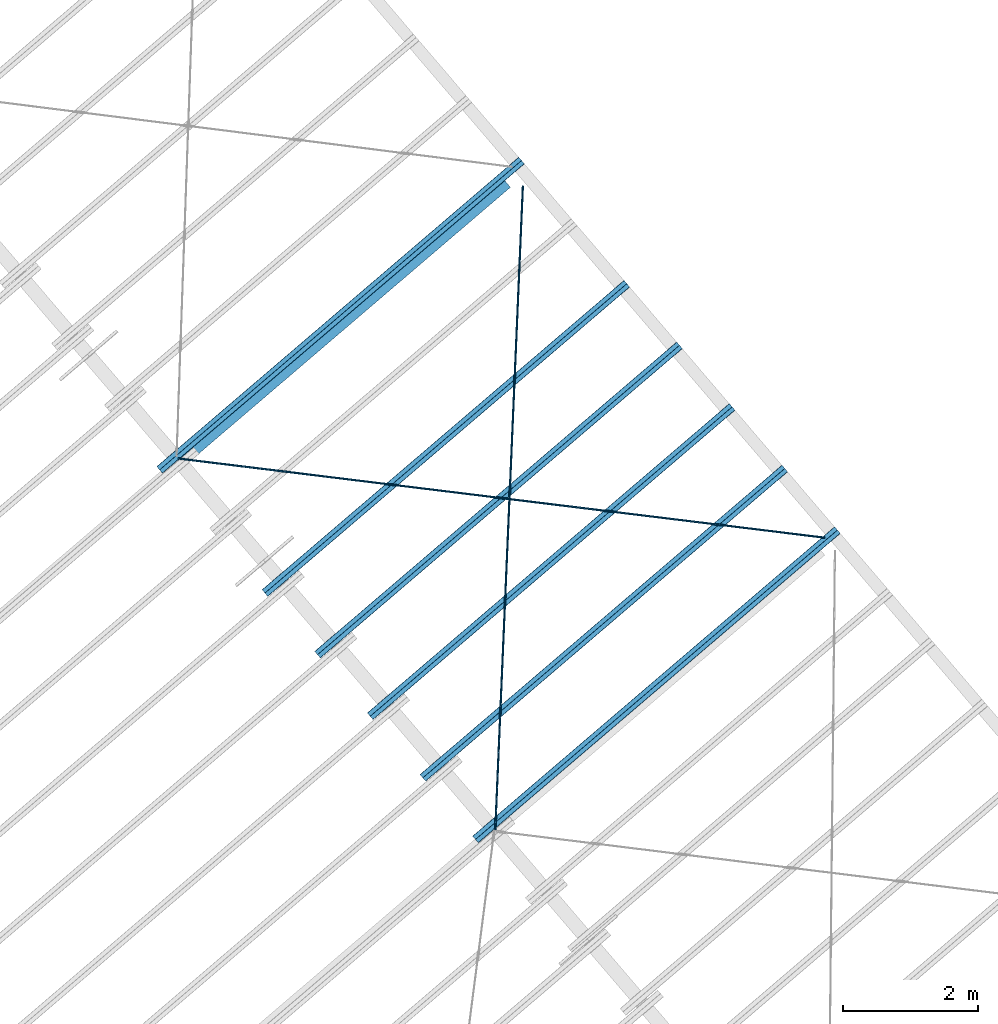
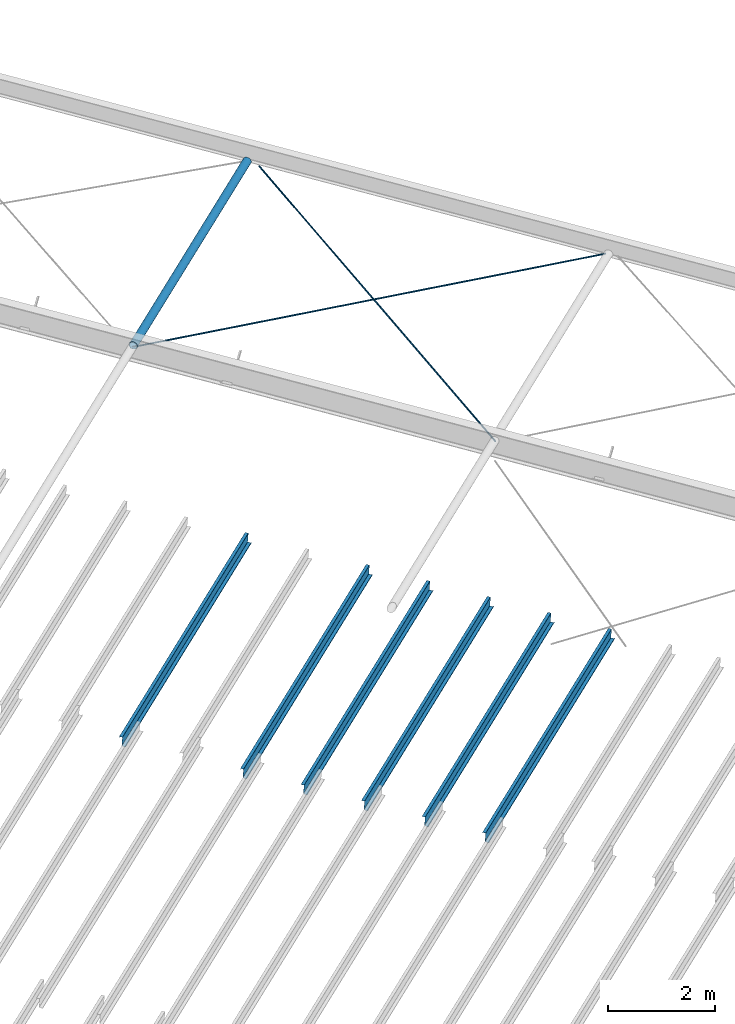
# One storey, part 17 of 25: 9 beams, 1 element without a shape of its own.
"""IFC2X3 building model written with IfcOpenShell, lengths in millimetres."""

import ifcopenshell
import ifcopenshell.guid

model = None  # the IFC model being written
_history = None  # IfcOwnerHistory: only IFC2X3 demands one
_inside = {}  # id of a spatial element -> (the spatial element, [elements in it])
_under = {}  # id of a project, library or spatial element -> (it, [spatial elements below it])
_declared = {}  # id of a project -> (the project, [libraries it declares])
_typed = {}  # id of a type object -> (the type object, [elements of that type])
_made_of = {}  # id of a material, layer set ... -> (it, [elements and type objects made of it])


def new_model(schema):
    """Start an empty IFC model of exactly this schema.

    Asked for "IFC4X3", IfcOpenShell would pick the latest addendum, in which some entities
    have other attributes; the version numbers below select the first issue.
    IFC2X3 requires an IfcOwnerHistory on every rooted entity: one is made here for all.
    """
    global model, _history
    if schema == "IFC4X3":
        model = ifcopenshell.file(schema_version=(4, 3, 0, 0))
    else:
        model = ifcopenshell.file(schema=schema)
    _inside.clear()
    _under.clear()
    _declared.clear()
    _typed.clear()
    _made_of.clear()
    _history = None
    if model.schema == "IFC2X3":
        org = make("IfcOrganization", Name="unknown")
        user = make(
            "IfcPersonAndOrganization",
            ThePerson=make("IfcPerson", FamilyName="unknown"),
            TheOrganization=org,
        )
        app = make(
            "IfcApplication",
            ApplicationDeveloper=org,
            Version="unknown",
            ApplicationFullName="unknown",
            ApplicationIdentifier="unknown",
        )
        _history = make(
            "IfcOwnerHistory",
            OwningUser=user,
            OwningApplication=app,
            ChangeAction="ADDED",
            CreationDate=0,
        )
    return model


def make(cls, **values):
    """One entity of the class cls with the attributes given. An attribute that is None is left unset."""
    return model.create_entity(
        cls, **{name: value for name, value in values.items() if value is not None}
    )


def entity(cls, *values):
    """Any entity or typed value of the class cls, its attributes in the order of the schema. None: left unset."""
    e = model.create_entity(cls)
    for i, value in enumerate(values):
        if value is not None:
            e[i] = value
    return e


def rooted(cls, **values):
    """An entity with a GlobalId (a new one), such as an element, a storey or a relation."""
    return make(cls, GlobalId=ifcopenshell.guid.new(), OwnerHistory=_history, **values)


def si_unit(unit_type, name, prefix=None):
    """IfcSIUnit, for example si_unit("LENGTHUNIT", "METRE", prefix="MILLI")."""
    return make("IfcSIUnit", UnitType=unit_type, Prefix=prefix, Name=name)


def converted_unit(unit_type, name, factor, base, dimensions=None, offset=None):
    """IfcConversionBasedUnit, such as the inch: factor (a typed value) times the base unit."""
    return make(
        "IfcConversionBasedUnit"
        if offset is None
        else "IfcConversionBasedUnitWithOffset",
        ConversionOffset=offset,
        Dimensions=None
        if dimensions is None
        else entity("IfcDimensionalExponents", *dimensions),
        UnitType=unit_type,
        Name=name,
        ConversionFactor=make(
            "IfcMeasureWithUnit", ValueComponent=factor, UnitComponent=base
        ),
    )


def derived_unit(unit_type, elements):
    """IfcDerivedUnit: a product of units, each with its exponent."""
    return make(
        "IfcDerivedUnit",
        Elements=[
            make("IfcDerivedUnitElement", Unit=unit, Exponent=power)
            for unit, power in elements
        ],
        UnitType=unit_type,
    )


def assignment(units):
    """IfcUnitAssignment: the units of a project."""
    return None if units is None else make("IfcUnitAssignment", Units=units)


def point(xyz):
    """IfcCartesianPoint."""
    return None if xyz is None else make("IfcCartesianPoint", Coordinates=xyz)


def direction(xyz):
    """IfcDirection."""
    return None if xyz is None else make("IfcDirection", DirectionRatios=xyz)


def frame(location, z_axis=None, x_axis=None):
    """IfcAxis2Placement3D, a coordinate frame: its origin and axes. An axis left out is left unset."""
    return make(
        "IfcAxis2Placement3D",
        Location=point(location),
        Axis=direction(z_axis),
        RefDirection=direction(x_axis),
    )


def frame_2d(location, x_axis=None):
    """IfcAxis2Placement2D, a coordinate frame in the plane: its origin and x axis."""
    return make(
        "IfcAxis2Placement2D", Location=point(location), RefDirection=direction(x_axis)
    )


def origin():
    """The frame at (0, 0, 0) with its axes left unset."""
    return frame((0.0, 0.0, 0.0))


def origin_2d_with_axis():
    """The frame at (0, 0) in the plane with the x axis (1, 0) written out."""
    return frame_2d((0.0, 0.0), x_axis=(1.0, 0.0))


def place(relative_to, where):
    """IfcLocalPlacement: puts the frame where relative to a parent placement (None: the world)."""
    return make(
        "IfcLocalPlacement", PlacementRelTo=relative_to, RelativePlacement=where
    )


def context(
    kind, dimensions, precision=None, world=None, true_north=None, identifier=None
):
    """IfcGeometricRepresentationContext, for example the 3D "Model" context."""
    return make(
        "IfcGeometricRepresentationContext",
        ContextIdentifier=identifier,
        ContextType=kind,
        CoordinateSpaceDimension=dimensions,
        Precision=precision,
        WorldCoordinateSystem=world,
        TrueNorth=true_north,
    )


def subcontext(parent, identifier, kind, view, scale=None):
    """IfcGeometricRepresentationSubContext, for example "Body" below "Model"."""
    return make(
        "IfcGeometricRepresentationSubContext",
        ContextIdentifier=identifier,
        ContextType=kind,
        ParentContext=parent,
        TargetScale=scale,
        TargetView=view,
    )


def project(units=None, contexts=None):
    """IfcProject with its units and contexts."""
    return rooted(
        "IfcProject",
        Name="project",
        RepresentationContexts=contexts,
        UnitsInContext=assignment(units),
    )


def spatial(cls, under=None, at=None, **own):
    """A site, building, storey or space (cls), placed at a placement, below another one or the project."""
    s = rooted(cls, ObjectPlacement=at, **own)
    if under is not None:
        _under.setdefault(under.id(), (under, []))[1].append(s)
    return s


def polyline(points):
    """IfcPolyline through the points."""
    return make("IfcPolyline", Points=[point(p) for p in points])


def circle_curve(where, radius):
    """IfcCircle in the frame where."""
    return make("IfcCircle", Position=where, Radius=radius)


def parameter(value):
    """IfcParameterValue: where a trimmed curve begins or ends, as a parameter of its basis curve."""
    return model.create_entity("IfcParameterValue", value)


def trimmed(basis, trim1, trim2, sense, master):
    """IfcTrimmedCurve: the piece of a basis curve between two trims."""
    return make(
        "IfcTrimmedCurve",
        BasisCurve=basis,
        Trim1=trim1,
        Trim2=trim2,
        SenseAgreement=sense,
        MasterRepresentation=master,
    )


def segment(curve, same_sense, transition):
    """IfcCompositeCurveSegment."""
    return make(
        "IfcCompositeCurveSegment",
        Transition=transition,
        SameSense=same_sense,
        ParentCurve=curve,
    )


def composite_curve(segments, self_intersect=None):
    """IfcCompositeCurve: segments joined end to end."""
    return make("IfcCompositeCurve", Segments=segments, SelfIntersect=self_intersect)


def profile(cls, at=None, kind="AREA", **sizes):
    """A parametric profile (cls). Its sizes go by their IFC names, for example OverallWidth=200.0."""
    return make(cls, ProfileType=kind, Position=at, **sizes)


def circle(**sizes):
    """IfcCircleProfileDef."""
    return profile("IfcCircleProfileDef", **sizes)


def hollow_circle(**sizes):
    """IfcCircleHollowProfileDef."""
    return profile("IfcCircleHollowProfileDef", **sizes)


def outline(outer, holes=None, kind="AREA"):
    """IfcArbitraryClosedProfileDef: a profile drawn as a closed curve; with holes, ...WithVoids."""
    if holes is None:
        return make("IfcArbitraryClosedProfileDef", ProfileType=kind, OuterCurve=outer)
    return make(
        "IfcArbitraryProfileDefWithVoids",
        ProfileType=kind,
        OuterCurve=outer,
        InnerCurves=holes,
    )


def extrude(swept, where, along, depth):
    """IfcExtrudedAreaSolid: the profile swept, set in the frame where, extruded along a direction by depth."""
    return make(
        "IfcExtrudedAreaSolid",
        SweptArea=swept,
        Position=where,
        ExtrudedDirection=direction(along),
        Depth=depth,
    )


def shape(context_of_items, identifier, shape_type, items):
    """IfcShapeRepresentation: the items that make up one representation, for example the "Body"."""
    return make(
        "IfcShapeRepresentation",
        ContextOfItems=context_of_items,
        RepresentationIdentifier=identifier,
        RepresentationType=shape_type,
        Items=items,
    )


def material(Name=None, Category=None):
    """IfcMaterial."""
    return make("IfcMaterial", Name=Name, Category=Category)


def made_of(thing, what):
    """Note that an element or type object is made of a material, layer set ...; save() writes the relation."""
    if what is not None:
        _made_of.setdefault(what.id(), (what, []))[1].append(thing)
    return thing


def type_object(cls, material=None, **own):
    """A type object (cls), such as IfcWallType, which elements share."""
    return made_of(rooted(cls, **own), material)


def element(
    cls,
    number,
    at=None,
    inside=None,
    cuts=None,
    type_object=None,
    material=None,
    context=None,
    identifier="Body",
    shape_type=None,
    held_by="IfcProductDefinitionShape",
    body=None,
    shapes=None,
    **own,
):
    """One element of the class cls, such as IfcWall. Its Tag is "e" and its number.

    at: its placement. inside: the storey or other place that contains it. cuts: it is an
    opening in that element (IfcRelVoidsElement). A single representation is given by context,
    identifier, shape_type and body (its items); several are given by shapes. held_by: the class
    of the entity that holds the representations. save() writes the other relations.
    """
    e = rooted(cls, Tag="e%d" % number, ObjectPlacement=at, **own)
    if body is not None:
        shapes = [shape(context, identifier, shape_type, body)]
    if shapes is not None:
        e.Representation = make(held_by, Representations=shapes)
    if inside is not None:
        _inside.setdefault(inside.id(), (inside, []))[1].append(e)
    if cuts is not None:
        rooted(
            "IfcRelVoidsElement", RelatingBuildingElement=cuts, RelatedOpeningElement=e
        )
    if type_object is not None:
        _typed.setdefault(type_object.id(), (type_object, []))[1].append(e)
    return made_of(e, material)


def aggregate(whole, parts):
    """IfcRelAggregates: a whole, such as a stair, and the parts it consists of."""
    return rooted("IfcRelAggregates", RelatingObject=whole, RelatedObjects=parts)


def save(model, path):
    """Write the relations noted so far, then the file.

    IfcRelAggregates (storeys below a building ...), IfcRelContainedInSpatialStructure (elements
    in a storey), IfcRelDefinesByType, IfcRelAssociatesMaterial and IfcRelDeclares: one each for
    every whole, place, type object, material and project.
    """
    for whole, parts in _under.values():
        aggregate(whole, parts)
    for where, things in _inside.values():
        rooted(
            "IfcRelContainedInSpatialStructure",
            RelatedElements=things,
            RelatingStructure=where,
        )
    for kind, things in _typed.values():
        rooted("IfcRelDefinesByType", RelatedObjects=things, RelatingType=kind)
    for what, things in _made_of.values():
        rooted("IfcRelAssociatesMaterial", RelatedObjects=things, RelatingMaterial=what)
    for by, libraries in _declared.values():
        rooted("IfcRelDeclares", RelatingContext=by, RelatedDefinitions=libraries)
    model.write(path)


model = new_model("IFC2X3")

# Units and contexts
model_context = context("Model", 3, precision=0.01, world=origin(), true_north=direction((6.123031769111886e-17, 1.0)))
body_context = subcontext(model_context, "Body", "Model", "MODEL_VIEW")
ifc_project = project(units=[si_unit("LENGTHUNIT", "METRE", prefix="MILLI"), si_unit("AREAUNIT", "SQUARE_METRE"), si_unit("VOLUMEUNIT", "CUBIC_METRE"), converted_unit("PLANEANGLEUNIT", "DEGREE", entity("IfcRatioMeasure", 0.017453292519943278), si_unit("PLANEANGLEUNIT", "RADIAN"), dimensions=[0, 0, 0, 0, 0, 0, 0]), si_unit("MASSUNIT", "GRAM", prefix="KILO"), derived_unit("MASSDENSITYUNIT", [(si_unit("MASSUNIT", "GRAM", prefix="KILO"), 1), (si_unit("LENGTHUNIT", "METRE"), -3)]), derived_unit("MOMENTOFINERTIAUNIT", [(si_unit("LENGTHUNIT", "METRE"), 4)]), si_unit("TIMEUNIT", "SECOND"), si_unit("FREQUENCYUNIT", "HERTZ"), si_unit("THERMODYNAMICTEMPERATUREUNIT", "DEGREE_CELSIUS"), derived_unit("THERMALTRANSMITTANCEUNIT", [(si_unit("MASSUNIT", "GRAM", prefix="KILO"), 1), (si_unit("THERMODYNAMICTEMPERATUREUNIT", "KELVIN"), -1), (si_unit("TIMEUNIT", "SECOND"), -3)]), derived_unit("VOLUMETRICFLOWRATEUNIT", [(si_unit("LENGTHUNIT", "METRE"), 3), (si_unit("TIMEUNIT", "SECOND"), -1)]), derived_unit("MASSFLOWRATEUNIT", [(si_unit("MASSUNIT", "GRAM", prefix="KILO"), 1), (si_unit("TIMEUNIT", "SECOND"), -1)]), derived_unit("ROTATIONALFREQUENCYUNIT", [(si_unit("TIMEUNIT", "SECOND"), -1)]), si_unit("ELECTRICCURRENTUNIT", "AMPERE"), si_unit("ELECTRICVOLTAGEUNIT", "VOLT"), si_unit("POWERUNIT", "WATT"), si_unit("FORCEUNIT", "NEWTON", prefix="KILO"), si_unit("ILLUMINANCEUNIT", "LUX"), si_unit("LUMINOUSFLUXUNIT", "LUMEN"), si_unit("LUMINOUSINTENSITYUNIT", "CANDELA"), derived_unit("USERDEFINED", [(si_unit("MASSUNIT", "GRAM", prefix="KILO"), -1), (si_unit("LENGTHUNIT", "METRE"), -2), (si_unit("TIMEUNIT", "SECOND"), 3), (si_unit("LUMINOUSFLUXUNIT", "LUMEN"), 1)]), derived_unit("SOUNDPOWERUNIT", [(si_unit("MASSUNIT", "GRAM", prefix="KILO"), 1), (si_unit("LENGTHUNIT", "METRE"), 2), (si_unit("TIMEUNIT", "SECOND"), -3)]), derived_unit("LINEARVELOCITYUNIT", [(si_unit("LENGTHUNIT", "METRE"), 1), (si_unit("TIMEUNIT", "SECOND"), -1)]), si_unit("PRESSUREUNIT", "PASCAL"), derived_unit("USERDEFINED", [(si_unit("LENGTHUNIT", "METRE"), -2), (si_unit("MASSUNIT", "GRAM", prefix="KILO"), 1), (si_unit("TIMEUNIT", "SECOND"), -2)]), derived_unit("LINEARFORCEUNIT", [(si_unit("MASSUNIT", "GRAM", prefix="KILO"), 1), (si_unit("LENGTHUNIT", "METRE"), 1), (si_unit("TIMEUNIT", "SECOND"), -2), (si_unit("LENGTHUNIT", "METRE"), -1)]), derived_unit("PLANARFORCEUNIT", [(si_unit("MASSUNIT", "GRAM", prefix="KILO"), 1), (si_unit("LENGTHUNIT", "METRE"), 1), (si_unit("TIMEUNIT", "SECOND"), -2), (si_unit("LENGTHUNIT", "METRE"), -2)])], contexts=[model_context])

# Site, building, storey
site_placement = place(None, frame((962.4174930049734, -6014.433753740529, 0.0), z_axis=(0.0, 0.0, 1.0), x_axis=(0.7601792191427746, 0.649713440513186, 0.0)))
site = spatial("IfcSite", under=ifc_project, at=site_placement, Name="Default", CompositionType="ELEMENT")
building_placement = place(site_placement, origin())
building = spatial("IfcBuilding", under=site, at=building_placement, CompositionType="ELEMENT")
storey_placement = place(building_placement, frame((0.0, 0.0, 9200.0)))
storey = spatial("IfcBuildingStorey", under=building, at=storey_placement, Name="TOP OF CEILING", CompositionType="ELEMENT", Elevation=9200.000000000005)

# Beams
ifc_material_1 = material(Name="Metal - Steel - 300 MPa")
beam_type_1 = type_object("IfcBeamType", Name="ADSK_AU_CHS-Circular Hollow Sections (AS 1163_C350):168.3x6.4CHS", PredefinedType="NOTDEFINED")
beam_1_placement = place(storey_placement, frame((185538.96020471, -11221.928082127, 3047.4), z_axis=(0.0, 0.0, 1.0), x_axis=(-1.0, 0.0, 0.0)))
element("IfcBeam", 1, at=beam_1_placement, inside=storey, type_object=beam_type_1, material=ifc_material_1, Name="ADSK_AU_CHS-Circular Hollow Sections (AS 1163_C350):168.3x6.4CHS", ObjectType="ADSK_AU_CHS-Circular Hollow Sections (AS 1163_C350):168.3x6.4CHS", context=body_context, shape_type="SweptSolid", body=[
    extrude(hollow_circle(Radius=84.15000000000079, WallThickness=6.4000000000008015, at=origin_2d_with_axis()), frame((47.04952311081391, 0.0, -84.15000000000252), z_axis=(1.0, 0.0, 0.0), x_axis=(0.0, 1.0, 0.0)), (0.0, 0.0, 1.0), 6360.799999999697),
])
beam_type_2 = type_object("IfcBeamType", Name="ADSK_AU_Round Bars (AS 3679_1):24ROD", PredefinedType="NOTDEFINED")
beam_2_placement = place(storey_placement, frame((179138.96020471, -18390.711834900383, 2450.0), z_axis=(-0.02495802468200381, -0.026785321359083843, 0.9993295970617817), x_axis=(0.681253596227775, 0.731131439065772, 0.03661087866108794)))
element("IfcBeam", 2, at=beam_2_placement, inside=storey, type_object=beam_type_2, Name="ADSK_AU_Round Bars (AS 3679_1):24ROD", ObjectType="ADSK_AU_Round Bars (AS 3679_1):24ROD", context=body_context, shape_type="SweptSolid", body=[
    extrude(circle(Radius=11.999999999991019, at=frame_2d((-2.501549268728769e-23, 1.731425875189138e-11), x_axis=(1.0, 0.0))), frame((24.699999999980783, 0.0, -12.0), z_axis=(1.0, 0.0, 0.0), x_axis=(0.0, -1.0, 0.0)), (0.0, 0.0, 1.0), 9522.500000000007),
])
beam_3_placement = place(storey_placement, frame((185656.1312596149, -18255.614504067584, 2400.0), z_axis=(0.034966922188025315, -0.03816274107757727, 0.9986595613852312), x_axis=(-0.6746553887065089, 0.7363158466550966, 0.05175983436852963)))
element("IfcBeam", 3, at=beam_3_placement, inside=storey, type_object=beam_type_2, Name="ADSK_AU_Round Bars (AS 3679_1):24ROD", ObjectType="ADSK_AU_Round Bars (AS 3679_1):24ROD", context=body_context, shape_type="SweptSolid", body=[
    extrude(circle(Radius=12.000000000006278, at=frame_2d((-1.463085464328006e-12, -8.73397525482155e-12), x_axis=(1.0, 0.0))), frame((0.0, 0.0, -12.0), z_axis=(1.0, 0.0, 0.0), x_axis=(0.0, -1.0, 0.0)), (0.0, 0.0, 1.0), 9634.100000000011),
])

# Assembly, beams
assembly_placement = place(storey_placement, origin())
assembly = element("IfcElementAssembly", 4, at=assembly_placement, inside=storey, Name="Structural Beam System:Structural Beam System 1", ObjectType="Structural Beam System:Structural Beam System 1", AssemblyPlace="NOTDEFINED", PredefinedType="BEAM_GRID")
ifc_material_2 = material(Name="Metal - Light Gauge")
beam_type_3 = type_object("IfcBeamType", Name="ADSK_AU_Light Gauge-Zeds:Z20019", PredefinedType="NOTDEFINED")
beam_4_placement = place(building_placement, frame((185873.56020470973, -11110.92597860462, 3413.05675775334), z_axis=(0.0, 0.0, 1.0), x_axis=(-1.0, 0.0, 0.0)))
beam_4 = element("IfcBeam", 5, at=beam_4_placement, type_object=beam_type_3, material=ifc_material_2, Name="ADSK_AU_Light Gauge-Zeds:Z20019", ObjectType="ADSK_AU_Light Gauge-Zeds:Z20019", context=body_context, shape_type="SweptSolid", body=[
    extrude(outline(composite_curve([segment(polyline([(99.64999999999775, 1.2799999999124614), (99.64999999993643, -70.4200000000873)]), True, "CONTINUOUS"), segment(trimmed(circle_curve(frame_2d((97.64999999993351, -70.42000000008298), x_axis=(0.0, -1.0)), 2.0000000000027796), [parameter(0.0)], [parameter(89.99999999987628)], True, "PARAMETER"), False, "CONTINUOUS"), segment(polyline([(97.6499999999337, -72.42000000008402), (80.04999999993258, -72.42000000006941)]), True, "CONTINUOUS"), segment(polyline([(80.04999999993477, -72.42000000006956), (80.04999999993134, -74.32000000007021)]), True, "CONTINUOUS"), segment(polyline([(80.04999999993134, -74.32000000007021), (97.64999999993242, -74.3200000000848)]), True, "CONTINUOUS"), segment(trimmed(circle_curve(frame_2d((97.64999999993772, -70.42000000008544), x_axis=(1.0, 0.0)), 3.8999999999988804), [parameter(269.99999999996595)], [parameter(0.0)], True, "PARAMETER"), True, "CONTINUOUS"), segment(polyline([(101.54999999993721, -70.42000000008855), (101.54999999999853, 1.2799999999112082)]), True, "CONTINUOUS"), segment(trimmed(circle_curve(frame_2d((97.64999999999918, 1.2799999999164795), x_axis=(0.0, 1.0)), 3.899999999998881), [parameter(269.99999999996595)], [parameter(0.0)], True, "PARAMETER"), True, "CONTINUOUS"), segment(polyline([(97.65000000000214, 5.17999999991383), (-97.54999999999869, 5.1800000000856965)]), True, "CONTINUOUS"), segment(trimmed(circle_curve(frame_2d((-97.54999999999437, 7.180000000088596), x_axis=(-1.0, 0.0)), 2.0000000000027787), [parameter(0.0)], [parameter(89.99999999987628)], True, "PARAMETER"), False, "CONTINUOUS"), segment(polyline([(-99.54999999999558, 7.1800000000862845), (-99.54999999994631, 64.78000000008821)]), True, "CONTINUOUS"), segment(trimmed(circle_curve(frame_2d((-97.54999999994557, 64.78000000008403), x_axis=(0.0, 1.0)), 2.000000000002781), [parameter(0.0)], [parameter(89.99999999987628)], True, "PARAMETER"), False, "CONTINUOUS"), segment(polyline([(-97.54999999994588, 66.78000000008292), (-80.44999999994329, 66.78000000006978)]), True, "CONTINUOUS"), segment(polyline([(-80.44999999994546, 66.78000000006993), (-80.44999999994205, 68.68000000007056)]), True, "CONTINUOUS"), segment(polyline([(-80.44999999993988, 68.68000000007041), (-97.54999999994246, 68.68000000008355)]), True, "CONTINUOUS"), segment(trimmed(circle_curve(frame_2d((-97.54999999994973, 64.7800000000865), x_axis=(-1.0, 0.0)), 3.8999999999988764), [parameter(269.99999999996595)], [parameter(0.0)], True, "PARAMETER"), True, "CONTINUOUS"), segment(polyline([(-101.4499999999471, 64.78000000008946), (-101.44999999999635, 7.180000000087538)]), True, "CONTINUOUS"), segment(trimmed(circle_curve(frame_2d((-97.5499999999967, 7.180000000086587), x_axis=(0.0, -1.0)), 3.8999999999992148), [parameter(269.9999999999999)], [parameter(0.0)], True, "PARAMETER"), True, "CONTINUOUS"), segment(polyline([(-97.54999999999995, 3.280000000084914), (97.6500000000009, 3.2799999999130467)]), True, "CONTINUOUS"), segment(trimmed(circle_curve(frame_2d((97.64999999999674, 1.2799999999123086), x_axis=(1.0, 0.0)), 2.000000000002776), [parameter(0.0)], [parameter(89.99999999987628)], True, "PARAMETER"), False, "CONTINUOUS")], self_intersect=False)), frame((0.0, -1.9094124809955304, -101.56421143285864), z_axis=(-1.0, 0.0, 0.0), x_axis=(0.0, -0.06975647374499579, -0.9975640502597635)), (0.0, 0.0, -1.0), 7035.00000000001),
])
beam_5_placement = place(building_placement, frame((185873.56020470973, -13505.079699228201, 3245.6412207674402), z_axis=(0.0, 0.0, 1.0), x_axis=(-1.0, 0.0, 0.0)))
beam_5 = element("IfcBeam", 6, at=beam_5_placement, type_object=beam_type_3, material=ifc_material_2, Name="ADSK_AU_Light Gauge-Zeds:Z20019", ObjectType="ADSK_AU_Light Gauge-Zeds:Z20019", context=body_context, shape_type="SweptSolid", body=[
    extrude(outline(composite_curve([segment(polyline([(99.65000000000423, 1.2799999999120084), (99.64999999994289, -70.42000000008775)]), True, "CONTINUOUS"), segment(trimmed(circle_curve(frame_2d((97.64999999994, -70.42000000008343), x_axis=(0.0, -1.0)), 2.0000000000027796), [parameter(0.0)], [parameter(89.99999999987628)], True, "PARAMETER"), False, "CONTINUOUS"), segment(polyline([(97.64999999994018, -72.42000000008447), (80.04999999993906, -72.42000000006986)]), True, "CONTINUOUS"), segment(polyline([(80.04999999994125, -72.42000000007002), (80.04999999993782, -74.32000000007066)]), True, "CONTINUOUS"), segment(polyline([(80.04999999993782, -74.32000000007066), (97.6499999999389, -74.32000000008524)]), True, "CONTINUOUS"), segment(trimmed(circle_curve(frame_2d((97.6499999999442, -70.42000000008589), x_axis=(1.0, 0.0)), 3.8999999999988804), [parameter(269.99999999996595)], [parameter(0.0)], True, "PARAMETER"), True, "CONTINUOUS"), segment(polyline([(101.5499999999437, -70.420000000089), (101.55000000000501, 1.2799999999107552)]), True, "CONTINUOUS"), segment(trimmed(circle_curve(frame_2d((97.65000000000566, 1.2799999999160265), x_axis=(0.0, 1.0)), 3.899999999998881), [parameter(269.99999999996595)], [parameter(0.0)], True, "PARAMETER"), True, "CONTINUOUS"), segment(polyline([(97.65000000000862, 5.1799999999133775), (-97.54999999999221, 5.1800000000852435)]), True, "CONTINUOUS"), segment(trimmed(circle_curve(frame_2d((-97.5499999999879, 7.180000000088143), x_axis=(-1.0, 0.0)), 2.0000000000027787), [parameter(0.0)], [parameter(89.99999999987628)], True, "PARAMETER"), False, "CONTINUOUS"), segment(polyline([(-99.5499999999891, 7.1800000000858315), (-99.54999999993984, 64.78000000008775)]), True, "CONTINUOUS"), segment(trimmed(circle_curve(frame_2d((-97.54999999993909, 64.78000000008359), x_axis=(0.0, 1.0)), 2.000000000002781), [parameter(0.0)], [parameter(89.99999999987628)], True, "PARAMETER"), False, "CONTINUOUS"), segment(polyline([(-97.5499999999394, 66.78000000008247), (-80.44999999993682, 66.78000000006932)]), True, "CONTINUOUS"), segment(polyline([(-80.44999999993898, 66.78000000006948), (-80.44999999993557, 68.68000000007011)]), True, "CONTINUOUS"), segment(polyline([(-80.4499999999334, 68.68000000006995), (-97.54999999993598, 68.6800000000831)]), True, "CONTINUOUS"), segment(trimmed(circle_curve(frame_2d((-97.54999999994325, 64.78000000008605), x_axis=(-1.0, 0.0)), 3.8999999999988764), [parameter(269.99999999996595)], [parameter(0.0)], True, "PARAMETER"), True, "CONTINUOUS"), segment(polyline([(-101.44999999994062, 64.780000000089), (-101.44999999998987, 7.180000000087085)]), True, "CONTINUOUS"), segment(trimmed(circle_curve(frame_2d((-97.54999999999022, 7.180000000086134), x_axis=(0.0, -1.0)), 3.8999999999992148), [parameter(269.9999999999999)], [parameter(0.0)], True, "PARAMETER"), True, "CONTINUOUS"), segment(polyline([(-97.54999999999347, 3.280000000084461), (97.65000000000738, 3.2799999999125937)]), True, "CONTINUOUS"), segment(trimmed(circle_curve(frame_2d((97.6500000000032, 1.2799999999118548), x_axis=(1.0, 0.0)), 2.000000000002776), [parameter(0.0)], [parameter(89.99999999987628)], True, "PARAMETER"), False, "CONTINUOUS")], self_intersect=False)), frame((0.0, -1.9094124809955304, -101.56421143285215), z_axis=(-1.0, 0.0, 0.0), x_axis=(0.0, -0.06975647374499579, -0.9975640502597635)), (0.0, 0.0, -1.0), 7035.00000000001),
])
beam_6_placement = place(building_placement, frame((185873.56020470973, -14702.15655953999, 3161.9334522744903), z_axis=(0.0, 0.0, 1.0), x_axis=(-1.0, 0.0, 0.0)))
beam_6 = element("IfcBeam", 7, at=beam_6_placement, type_object=beam_type_3, material=ifc_material_2, Name="ADSK_AU_Light Gauge-Zeds:Z20019", ObjectType="ADSK_AU_Light Gauge-Zeds:Z20019", context=body_context, shape_type="SweptSolid", body=[
    extrude(outline(composite_curve([segment(polyline([(99.65000000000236, 1.2799999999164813), (99.64999999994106, -70.42000000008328)]), True, "CONTINUOUS"), segment(trimmed(circle_curve(frame_2d((97.64999999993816, -70.42000000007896), x_axis=(0.0, -1.0)), 2.0000000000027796), [parameter(0.0)], [parameter(89.99999999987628)], True, "PARAMETER"), False, "CONTINUOUS"), segment(polyline([(97.64999999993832, -72.42000000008), (80.0499999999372, -72.42000000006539)]), True, "CONTINUOUS"), segment(polyline([(80.04999999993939, -72.42000000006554), (80.04999999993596, -74.32000000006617)]), True, "CONTINUOUS"), segment(polyline([(80.04999999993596, -74.32000000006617), (97.64999999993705, -74.32000000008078)]), True, "CONTINUOUS"), segment(trimmed(circle_curve(frame_2d((97.64999999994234, -70.42000000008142), x_axis=(1.0, 0.0)), 3.8999999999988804), [parameter(269.99999999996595)], [parameter(0.0)], True, "PARAMETER"), True, "CONTINUOUS"), segment(polyline([(101.54999999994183, -70.42000000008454), (101.55000000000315, 1.279999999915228)]), True, "CONTINUOUS"), segment(trimmed(circle_curve(frame_2d((97.6500000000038, 1.2799999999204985), x_axis=(0.0, 1.0)), 3.899999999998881), [parameter(269.99999999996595)], [parameter(0.0)], True, "PARAMETER"), True, "CONTINUOUS"), segment(polyline([(97.65000000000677, 5.17999999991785), (-97.54999999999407, 5.1800000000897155)]), True, "CONTINUOUS"), segment(trimmed(circle_curve(frame_2d((-97.54999999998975, 7.1800000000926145), x_axis=(-1.0, 0.0)), 2.0000000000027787), [parameter(0.0)], [parameter(89.99999999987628)], True, "PARAMETER"), False, "CONTINUOUS"), segment(polyline([(-99.54999999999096, 7.1800000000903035), (-99.54999999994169, 64.78000000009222)]), True, "CONTINUOUS"), segment(trimmed(circle_curve(frame_2d((-97.54999999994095, 64.78000000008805), x_axis=(0.0, 1.0)), 2.000000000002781), [parameter(0.0)], [parameter(89.99999999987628)], True, "PARAMETER"), False, "CONTINUOUS"), segment(polyline([(-97.54999999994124, 66.78000000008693), (-80.44999999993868, 66.7800000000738)]), True, "CONTINUOUS"), segment(polyline([(-80.44999999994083, 66.78000000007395), (-80.44999999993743, 68.68000000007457)]), True, "CONTINUOUS"), segment(polyline([(-80.44999999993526, 68.68000000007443), (-97.54999999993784, 68.68000000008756)]), True, "CONTINUOUS"), segment(trimmed(circle_curve(frame_2d((-97.54999999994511, 64.78000000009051), x_axis=(-1.0, 0.0)), 3.8999999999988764), [parameter(269.99999999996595)], [parameter(0.0)], True, "PARAMETER"), True, "CONTINUOUS"), segment(polyline([(-101.44999999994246, 64.78000000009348), (-101.44999999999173, 7.180000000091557)]), True, "CONTINUOUS"), segment(trimmed(circle_curve(frame_2d((-97.54999999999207, 7.180000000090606), x_axis=(0.0, -1.0)), 3.8999999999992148), [parameter(269.9999999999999)], [parameter(0.0)], True, "PARAMETER"), True, "CONTINUOUS"), segment(polyline([(-97.54999999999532, 3.280000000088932), (97.65000000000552, 3.2799999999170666)]), True, "CONTINUOUS"), segment(trimmed(circle_curve(frame_2d((97.65000000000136, 1.2799999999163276), x_axis=(1.0, 0.0)), 2.000000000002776), [parameter(0.0)], [parameter(89.99999999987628)], True, "PARAMETER"), False, "CONTINUOUS")], self_intersect=False)), frame((0.0, -1.909412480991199, -101.56421143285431), z_axis=(-1.0, 0.0, 0.0), x_axis=(0.0, -0.06975647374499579, -0.9975640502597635)), (0.0, 0.0, -1.0), 7035.00000000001),
])
beam_7_placement = place(building_placement, frame((185873.56020470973, -15899.23341985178, 3078.2256837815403), z_axis=(0.0, 0.0, 1.0), x_axis=(-1.0, 0.0, 0.0)))
beam_7 = element("IfcBeam", 8, at=beam_7_placement, type_object=beam_type_3, material=ifc_material_2, Name="ADSK_AU_Light Gauge-Zeds:Z20019", ObjectType="ADSK_AU_Light Gauge-Zeds:Z20019", context=body_context, shape_type="SweptSolid", body=[
    extrude(outline(composite_curve([segment(polyline([(99.65000000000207, 1.2799999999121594), (99.64999999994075, -70.4200000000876)]), True, "CONTINUOUS"), segment(trimmed(circle_curve(frame_2d((97.64999999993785, -70.42000000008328), x_axis=(0.0, -1.0)), 2.0000000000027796), [parameter(0.0)], [parameter(89.99999999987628)], True, "PARAMETER"), False, "CONTINUOUS"), segment(polyline([(97.64999999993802, -72.42000000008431), (80.0499999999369, -72.4200000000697)]), True, "CONTINUOUS"), segment(polyline([(80.04999999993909, -72.42000000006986), (80.04999999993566, -74.32000000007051)]), True, "CONTINUOUS"), segment(polyline([(80.04999999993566, -74.32000000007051), (97.64999999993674, -74.3200000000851)]), True, "CONTINUOUS"), segment(trimmed(circle_curve(frame_2d((97.64999999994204, -70.42000000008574), x_axis=(1.0, 0.0)), 3.8999999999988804), [parameter(269.99999999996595)], [parameter(0.0)], True, "PARAMETER"), True, "CONTINUOUS"), segment(polyline([(101.54999999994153, -70.42000000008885), (101.55000000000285, 1.2799999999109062)]), True, "CONTINUOUS"), segment(trimmed(circle_curve(frame_2d((97.6500000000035, 1.2799999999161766), x_axis=(0.0, 1.0)), 3.899999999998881), [parameter(269.99999999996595)], [parameter(0.0)], True, "PARAMETER"), True, "CONTINUOUS"), segment(polyline([(97.65000000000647, 5.179999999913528), (-97.54999999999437, 5.1800000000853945)]), True, "CONTINUOUS"), segment(trimmed(circle_curve(frame_2d((-97.54999999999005, 7.1800000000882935), x_axis=(-1.0, 0.0)), 2.0000000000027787), [parameter(0.0)], [parameter(89.99999999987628)], True, "PARAMETER"), False, "CONTINUOUS"), segment(polyline([(-99.54999999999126, 7.1800000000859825), (-99.54999999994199, 64.7800000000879)]), True, "CONTINUOUS"), segment(trimmed(circle_curve(frame_2d((-97.54999999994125, 64.78000000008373), x_axis=(0.0, 1.0)), 2.000000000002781), [parameter(0.0)], [parameter(89.99999999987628)], True, "PARAMETER"), False, "CONTINUOUS"), segment(polyline([(-97.54999999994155, 66.78000000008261), (-80.44999999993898, 66.78000000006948)]), True, "CONTINUOUS"), segment(polyline([(-80.44999999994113, 66.78000000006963), (-80.44999999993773, 68.68000000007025)]), True, "CONTINUOUS"), segment(polyline([(-80.44999999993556, 68.68000000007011), (-97.54999999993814, 68.68000000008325)]), True, "CONTINUOUS"), segment(trimmed(circle_curve(frame_2d((-97.54999999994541, 64.78000000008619), x_axis=(-1.0, 0.0)), 3.8999999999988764), [parameter(269.99999999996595)], [parameter(0.0)], True, "PARAMETER"), True, "CONTINUOUS"), segment(polyline([(-101.44999999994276, 64.78000000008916), (-101.44999999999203, 7.180000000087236)]), True, "CONTINUOUS"), segment(trimmed(circle_curve(frame_2d((-97.54999999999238, 7.180000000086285), x_axis=(0.0, -1.0)), 3.8999999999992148), [parameter(269.9999999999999)], [parameter(0.0)], True, "PARAMETER"), True, "CONTINUOUS"), segment(polyline([(-97.54999999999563, 3.2800000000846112), (97.65000000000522, 3.2799999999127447)]), True, "CONTINUOUS"), segment(trimmed(circle_curve(frame_2d((97.65000000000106, 1.2799999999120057), x_axis=(1.0, 0.0)), 2.000000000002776), [parameter(0.0)], [parameter(89.99999999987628)], True, "PARAMETER"), False, "CONTINUOUS")], self_intersect=False)), frame((0.0, -1.9094124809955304, -101.56421143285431), z_axis=(-1.0, 0.0, 0.0), x_axis=(0.0, -0.06975647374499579, -0.9975640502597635)), (0.0, 0.0, -1.0), 7035.00000000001),
])
beam_8_placement = place(building_placement, frame((185873.56020470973, -17096.31028016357, 2994.5179152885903), z_axis=(0.0, 0.0, 1.0), x_axis=(-1.0, 0.0, 0.0)))
beam_8 = element("IfcBeam", 9, at=beam_8_placement, type_object=beam_type_3, material=ifc_material_2, Name="ADSK_AU_Light Gauge-Zeds:Z20019", ObjectType="ADSK_AU_Light Gauge-Zeds:Z20019", context=body_context, shape_type="SweptSolid", body=[
    extrude(outline(composite_curve([segment(polyline([(99.65000000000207, 1.2799999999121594), (99.64999999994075, -70.4200000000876)]), True, "CONTINUOUS"), segment(trimmed(circle_curve(frame_2d((97.64999999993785, -70.42000000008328), x_axis=(0.0, -1.0)), 2.0000000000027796), [parameter(0.0)], [parameter(89.99999999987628)], True, "PARAMETER"), False, "CONTINUOUS"), segment(polyline([(97.64999999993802, -72.42000000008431), (80.0499999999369, -72.4200000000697)]), True, "CONTINUOUS"), segment(polyline([(80.04999999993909, -72.42000000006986), (80.04999999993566, -74.32000000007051)]), True, "CONTINUOUS"), segment(polyline([(80.04999999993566, -74.32000000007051), (97.64999999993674, -74.3200000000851)]), True, "CONTINUOUS"), segment(trimmed(circle_curve(frame_2d((97.64999999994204, -70.42000000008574), x_axis=(1.0, 0.0)), 3.8999999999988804), [parameter(269.99999999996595)], [parameter(0.0)], True, "PARAMETER"), True, "CONTINUOUS"), segment(polyline([(101.54999999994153, -70.42000000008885), (101.55000000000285, 1.2799999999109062)]), True, "CONTINUOUS"), segment(trimmed(circle_curve(frame_2d((97.6500000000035, 1.2799999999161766), x_axis=(0.0, 1.0)), 3.899999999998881), [parameter(269.99999999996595)], [parameter(0.0)], True, "PARAMETER"), True, "CONTINUOUS"), segment(polyline([(97.65000000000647, 5.179999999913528), (-97.54999999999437, 5.1800000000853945)]), True, "CONTINUOUS"), segment(trimmed(circle_curve(frame_2d((-97.54999999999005, 7.1800000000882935), x_axis=(-1.0, 0.0)), 2.0000000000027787), [parameter(0.0)], [parameter(89.99999999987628)], True, "PARAMETER"), False, "CONTINUOUS"), segment(polyline([(-99.54999999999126, 7.1800000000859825), (-99.54999999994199, 64.7800000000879)]), True, "CONTINUOUS"), segment(trimmed(circle_curve(frame_2d((-97.54999999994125, 64.78000000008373), x_axis=(0.0, 1.0)), 2.000000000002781), [parameter(0.0)], [parameter(89.99999999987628)], True, "PARAMETER"), False, "CONTINUOUS"), segment(polyline([(-97.54999999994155, 66.78000000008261), (-80.44999999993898, 66.78000000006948)]), True, "CONTINUOUS"), segment(polyline([(-80.44999999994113, 66.78000000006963), (-80.44999999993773, 68.68000000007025)]), True, "CONTINUOUS"), segment(polyline([(-80.44999999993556, 68.68000000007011), (-97.54999999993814, 68.68000000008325)]), True, "CONTINUOUS"), segment(trimmed(circle_curve(frame_2d((-97.54999999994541, 64.78000000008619), x_axis=(-1.0, 0.0)), 3.8999999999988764), [parameter(269.99999999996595)], [parameter(0.0)], True, "PARAMETER"), True, "CONTINUOUS"), segment(polyline([(-101.44999999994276, 64.78000000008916), (-101.44999999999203, 7.180000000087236)]), True, "CONTINUOUS"), segment(trimmed(circle_curve(frame_2d((-97.54999999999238, 7.180000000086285), x_axis=(0.0, -1.0)), 3.8999999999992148), [parameter(269.9999999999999)], [parameter(0.0)], True, "PARAMETER"), True, "CONTINUOUS"), segment(polyline([(-97.54999999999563, 3.2800000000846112), (97.65000000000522, 3.2799999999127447)]), True, "CONTINUOUS"), segment(trimmed(circle_curve(frame_2d((97.65000000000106, 1.2799999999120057), x_axis=(1.0, 0.0)), 2.000000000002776), [parameter(0.0)], [parameter(89.99999999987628)], True, "PARAMETER"), False, "CONTINUOUS")], self_intersect=False)), frame((0.0, -1.9094124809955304, -101.56421143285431), z_axis=(-1.0, 0.0, 0.0), x_axis=(0.0, -0.06975647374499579, -0.9975640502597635)), (0.0, 0.0, -1.0), 7035.00000000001),
])
beam_9_placement = place(building_placement, frame((185873.56020470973, -18293.38714047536, 2910.810146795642), z_axis=(0.0, 0.0, 1.0), x_axis=(-1.0, 0.0, 0.0)))
beam_9 = element("IfcBeam", 10, at=beam_9_placement, type_object=beam_type_3, material=ifc_material_2, Name="ADSK_AU_Light Gauge-Zeds:Z20019", ObjectType="ADSK_AU_Light Gauge-Zeds:Z20019", context=body_context, shape_type="SweptSolid", body=[
    extrude(outline(composite_curve([segment(polyline([(99.65000000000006, 1.2799999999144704), (99.64999999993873, -70.4200000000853)]), True, "CONTINUOUS"), segment(trimmed(circle_curve(frame_2d((97.64999999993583, -70.42000000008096), x_axis=(0.0, -1.0)), 2.0000000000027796), [parameter(0.0)], [parameter(89.99999999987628)], True, "PARAMETER"), False, "CONTINUOUS"), segment(polyline([(97.649999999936, -72.42000000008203), (80.04999999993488, -72.42000000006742)]), True, "CONTINUOUS"), segment(polyline([(80.04999999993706, -72.42000000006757), (80.04999999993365, -74.32000000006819)]), True, "CONTINUOUS"), segment(polyline([(80.04999999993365, -74.32000000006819), (97.64999999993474, -74.3200000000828)]), True, "CONTINUOUS"), segment(trimmed(circle_curve(frame_2d((97.64999999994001, -70.42000000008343), x_axis=(1.0, 0.0)), 3.8999999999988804), [parameter(269.99999999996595)], [parameter(0.0)], True, "PARAMETER"), True, "CONTINUOUS"), segment(polyline([(101.5499999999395, -70.42000000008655), (101.55000000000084, 1.2799999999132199)]), True, "CONTINUOUS"), segment(trimmed(circle_curve(frame_2d((97.6500000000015, 1.2799999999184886), x_axis=(0.0, 1.0)), 3.899999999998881), [parameter(269.99999999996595)], [parameter(0.0)], True, "PARAMETER"), True, "CONTINUOUS"), segment(polyline([(97.65000000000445, 5.17999999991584), (-97.5499999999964, 5.180000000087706)]), True, "CONTINUOUS"), segment(trimmed(circle_curve(frame_2d((-97.54999999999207, 7.1800000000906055), x_axis=(-1.0, 0.0)), 2.0000000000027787), [parameter(0.0)], [parameter(89.99999999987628)], True, "PARAMETER"), False, "CONTINUOUS"), segment(polyline([(-99.54999999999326, 7.180000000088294), (-99.549999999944, 64.78000000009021)]), True, "CONTINUOUS"), segment(trimmed(circle_curve(frame_2d((-97.54999999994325, 64.78000000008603), x_axis=(0.0, 1.0)), 2.000000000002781), [parameter(0.0)], [parameter(89.99999999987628)], True, "PARAMETER"), False, "CONTINUOUS"), segment(polyline([(-97.54999999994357, 66.78000000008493), (-80.44999999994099, 66.78000000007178)]), True, "CONTINUOUS"), segment(polyline([(-80.44999999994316, 66.78000000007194), (-80.44999999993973, 68.68000000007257)]), True, "CONTINUOUS"), segment(polyline([(-80.44999999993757, 68.68000000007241), (-97.54999999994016, 68.68000000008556)]), True, "CONTINUOUS"), segment(trimmed(circle_curve(frame_2d((-97.54999999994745, 64.7800000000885), x_axis=(-1.0, 0.0)), 3.8999999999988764), [parameter(269.99999999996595)], [parameter(0.0)], True, "PARAMETER"), True, "CONTINUOUS"), segment(polyline([(-101.4499999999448, 64.78000000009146), (-101.44999999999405, 7.180000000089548)]), True, "CONTINUOUS"), segment(trimmed(circle_curve(frame_2d((-97.54999999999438, 7.180000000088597), x_axis=(0.0, -1.0)), 3.8999999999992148), [parameter(269.9999999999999)], [parameter(0.0)], True, "PARAMETER"), True, "CONTINUOUS"), segment(polyline([(-97.54999999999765, 3.2800000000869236), (97.6500000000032, 3.2799999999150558)]), True, "CONTINUOUS"), segment(trimmed(circle_curve(frame_2d((97.64999999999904, 1.2799999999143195), x_axis=(1.0, 0.0)), 2.000000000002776), [parameter(0.0)], [parameter(89.99999999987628)], True, "PARAMETER"), False, "CONTINUOUS")], self_intersect=False)), frame((0.0, -1.9094124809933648, -101.56421143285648), z_axis=(-1.0, 0.0, 0.0), x_axis=(0.0, -0.06975647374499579, -0.9975640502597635)), (0.0, 0.0, -1.0), 7035.00000000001),
])
aggregate(assembly, [beam_4, beam_5, beam_6, beam_7, beam_8, beam_9])

save(model, "model.ifc")
